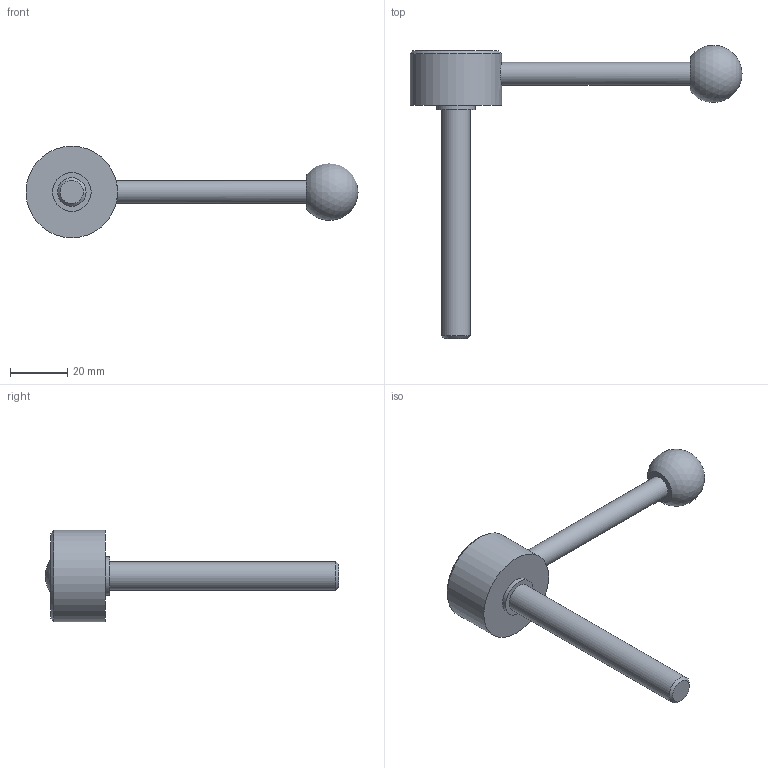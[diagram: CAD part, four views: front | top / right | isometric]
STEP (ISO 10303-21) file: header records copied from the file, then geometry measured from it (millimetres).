
FILE_DESCRIPTION( ( 'STEP AP203' ), '1' );
FILE_NAME( 'C:/Temp/Ganter_Step_05_03_2020/data/2_1/gn_125/gn_125_ms/gn_125_ms_d/Flat Adjustable Lever GN 125-32-M10-80-D.stp', '2020-03-05T11:00:47', ( 'License CC BY-ND 4.0' ), ( 'CADENAS' ), ' ', 'PARTsolutions', ' ' );
FILE_SCHEMA( ( 'CONFIG_CONTROL_DESIGN' ) );
Length unit declared in the file: millimetre
Products named in the file (1): _Flat Adjustable Lever GN 125-32-M10-80-D
Bounding box: 116 x 102.43 x 32 mm (x, y, z)
Volume: 29017.3 mm3; surface area: 8842.8 mm2
Topology: 1 solids, 1 shells, 14 faces, 23 edges, 15 vertices
Faces by surface type: plane 6, cylinder 5, cone 2, sphere 1
Full cylindrical faces by diameter (mm): 8 x1, 10 x1, 13.5 x1, 22 x1, 32 x1
Entity records: 384 total; most frequent: CARTESIAN_POINT 107, DIRECTION 54, AXIS2_PLACEMENT_3D 27, EDGE_LOOP 26, ORIENTED_EDGE 26, FACE_OUTER_BOUND 19, ADVANCED_FACE 14, VERTEX_POINT 14
